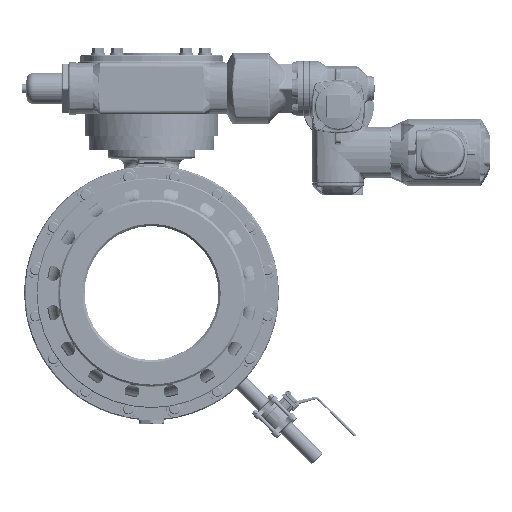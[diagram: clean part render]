
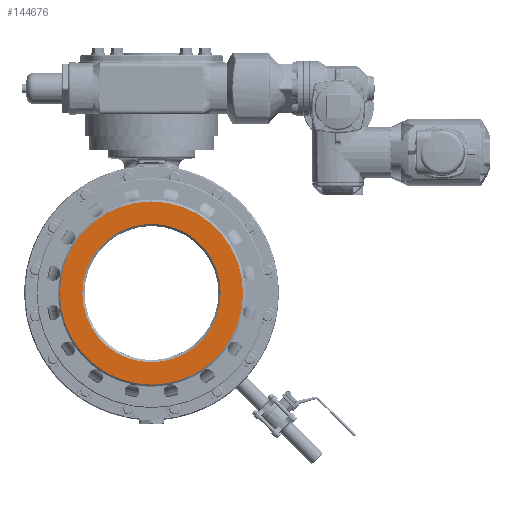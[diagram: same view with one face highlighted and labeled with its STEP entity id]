
A CAD part, left-side view. The second image highlights one B-rep face of the part: STEP entity #144676.
In plain terms, the highlighted planar face has unit normal (-1, 0, 0).
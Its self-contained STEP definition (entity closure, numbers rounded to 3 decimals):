
#40863=CARTESIAN_POINT('',(-305.,0.,0.));
#40864=DIRECTION('',(-1.,0.,0.));
#40865=DIRECTION('',(0.,0.,1.));
#40866=AXIS2_PLACEMENT_3D('',#40863,#40864,#40865);
#40872=CARTESIAN_POINT('',(-305.,0.,0.));
#40873=DIRECTION('',(1.,0.,0.));
#40874=DIRECTION('',(0.,0.,1.));
#40875=AXIS2_PLACEMENT_3D('',#40872,#40873,#40874);
#40886=CARTESIAN_POINT('',(-305.,0.,0.));
#40887=DIRECTION('',(-1.,0.,0.));
#40888=DIRECTION('',(0.,0.,1.));
#40889=AXIS2_PLACEMENT_3D('',#40886,#40887,#40888);
#40891=CARTESIAN_POINT('',(-305.,0.,0.));
#40892=DIRECTION('',(1.,0.,0.));
#40893=DIRECTION('',(0.,0.,1.));
#40894=AXIS2_PLACEMENT_3D('',#40891,#40892,#40893);
#52835=CARTESIAN_POINT('',(-305.,0.,155.));
#52836=CARTESIAN_POINT('',(-305.,0.,-155.));
#52837=VERTEX_POINT('',#52835);
#52838=VERTEX_POINT('',#52836);
#52979=CARTESIAN_POINT('',(-305.,0.,205.));
#52980=CARTESIAN_POINT('',(-305.,0.,-205.));
#52981=VERTEX_POINT('',#52979);
#52982=VERTEX_POINT('',#52980);
#144661=CARTESIAN_POINT('',(-305.,0.,0.));
#144662=DIRECTION('',(-1.,0.,0.));
#144663=DIRECTION('',(0.,0.,-1.));
#144664=AXIS2_PLACEMENT_3D('',#144661,#144662,#144663);
#144665=PLANE('',#144664);
#144667=ORIENTED_EDGE('',*,*,#144666,.F.);
#144669=ORIENTED_EDGE('',*,*,#144668,.T.);
#144670=EDGE_LOOP('',(#144667,#144669));
#144671=FACE_OUTER_BOUND('',#144670,.F.);
#144672=ORIENTED_EDGE('',*,*,#144643,.F.);
#144673=ORIENTED_EDGE('',*,*,#144628,.T.);
#144674=EDGE_LOOP('',(#144672,#144673));
#144675=FACE_BOUND('',#144674,.F.);
#144676=ADVANCED_FACE('',(#144671,#144675),#144665,.T.);
#40867=CIRCLE('',#40866,155.);
#40876=CIRCLE('',#40875,155.);
#40890=CIRCLE('',#40889,205.);
#40895=CIRCLE('',#40894,205.);
#144628=EDGE_CURVE('',#52837,#52838,#40867,.T.);
#144643=EDGE_CURVE('',#52837,#52838,#40876,.T.);
#144666=EDGE_CURVE('',#52981,#52982,#40890,.T.);
#144668=EDGE_CURVE('',#52981,#52982,#40895,.T.);
